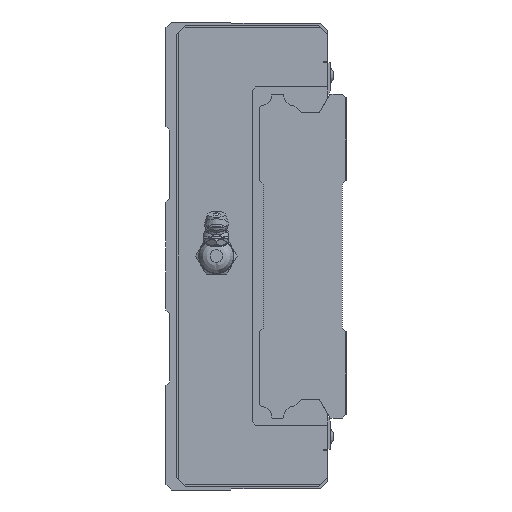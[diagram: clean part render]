
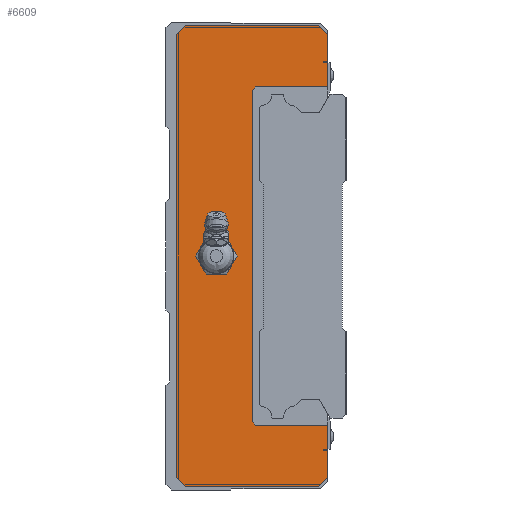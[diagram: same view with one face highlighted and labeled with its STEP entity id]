
A CAD part, left-side view. The second image highlights one B-rep face of the part: STEP entity #6609.
In plain terms, the highlighted planar face has unit normal (-1, 0, 0).
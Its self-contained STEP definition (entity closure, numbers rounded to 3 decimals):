
#108=LINE('',#10257,#514);
#123=LINE('',#10288,#529);
#130=LINE('',#10302,#536);
#134=LINE('',#10309,#540);
#142=LINE('',#10326,#548);
#145=LINE('',#10331,#551);
#164=LINE('',#10371,#570);
#165=LINE('',#10374,#571);
#166=LINE('',#10375,#572);
#167=LINE('',#10376,#573);
#168=LINE('',#10378,#574);
#169=LINE('',#10380,#575);
#170=LINE('',#10382,#576);
#171=LINE('',#10384,#577);
#172=LINE('',#10386,#578);
#173=LINE('',#10388,#579);
#174=LINE('',#10390,#580);
#175=LINE('',#10392,#581);
#176=LINE('',#10394,#582);
#177=LINE('',#10396,#583);
#178=LINE('',#10398,#584);
#179=LINE('',#10400,#585);
#514=VECTOR('',#8031,1000.);
#529=VECTOR('',#8048,1000.);
#536=VECTOR('',#8059,1000.);
#540=VECTOR('',#8065,1000.);
#548=VECTOR('',#8075,1000.);
#551=VECTOR('',#8080,1000.);
#570=VECTOR('',#8109,1000.);
#571=VECTOR('',#8110,1000.);
#572=VECTOR('',#8111,1000.);
#573=VECTOR('',#8112,1000.);
#574=VECTOR('',#8113,1000.);
#575=VECTOR('',#8114,1000.);
#576=VECTOR('',#8115,1000.);
#577=VECTOR('',#8116,1000.);
#578=VECTOR('',#8117,1000.);
#579=VECTOR('',#8118,1000.);
#580=VECTOR('',#8119,1000.);
#581=VECTOR('',#8120,1000.);
#582=VECTOR('',#8121,1000.);
#583=VECTOR('',#8122,1000.);
#584=VECTOR('',#8123,1000.);
#585=VECTOR('',#8124,1000.);
#900=PLANE('',#7103);
#1286=CIRCLE('',#7104,4.864);
#1882=ORIENTED_EDGE('',*,*,#3431,.T.);
#1883=ORIENTED_EDGE('',*,*,#3432,.F.);
#1884=ORIENTED_EDGE('',*,*,#3433,.F.);
#1885=ORIENTED_EDGE('',*,*,#3400,.F.);
#1886=ORIENTED_EDGE('',*,*,#3396,.F.);
#1887=ORIENTED_EDGE('',*,*,#3389,.F.);
#1888=ORIENTED_EDGE('',*,*,#3434,.F.);
#1889=ORIENTED_EDGE('',*,*,#3374,.F.);
#1890=ORIENTED_EDGE('',*,*,#3411,.F.);
#1891=ORIENTED_EDGE('',*,*,#3408,.F.);
#1892=ORIENTED_EDGE('',*,*,#3435,.F.);
#1893=ORIENTED_EDGE('',*,*,#3436,.F.);
#1894=ORIENTED_EDGE('',*,*,#3437,.F.);
#1895=ORIENTED_EDGE('',*,*,#3438,.F.);
#1896=ORIENTED_EDGE('',*,*,#3439,.F.);
#1897=ORIENTED_EDGE('',*,*,#3440,.T.);
#1898=ORIENTED_EDGE('',*,*,#3441,.T.);
#1899=ORIENTED_EDGE('',*,*,#3442,.T.);
#1900=ORIENTED_EDGE('',*,*,#3443,.T.);
#1901=ORIENTED_EDGE('',*,*,#3444,.T.);
#1902=ORIENTED_EDGE('',*,*,#3445,.F.);
#1903=ORIENTED_EDGE('',*,*,#3446,.F.);
#1904=ORIENTED_EDGE('',*,*,#3447,.F.);
#3374=EDGE_CURVE('',#4164,#4165,#108,.T.);
#3389=EDGE_CURVE('',#4179,#4180,#123,.T.);
#3396=EDGE_CURVE('',#4180,#4185,#130,.T.);
#3400=EDGE_CURVE('',#4185,#4187,#134,.T.);
#3408=EDGE_CURVE('',#4194,#4195,#142,.T.);
#3411=EDGE_CURVE('',#4195,#4164,#145,.T.);
#3431=EDGE_CURVE('',#4211,#4211,#1286,.T.);
#3432=EDGE_CURVE('',#4212,#4213,#164,.T.);
#3433=EDGE_CURVE('',#4187,#4212,#165,.T.);
#3434=EDGE_CURVE('',#4165,#4179,#166,.T.);
#3435=EDGE_CURVE('',#4214,#4194,#167,.T.);
#3436=EDGE_CURVE('',#4215,#4214,#168,.T.);
#3437=EDGE_CURVE('',#4216,#4215,#169,.T.);
#3438=EDGE_CURVE('',#4217,#4216,#170,.T.);
#3439=EDGE_CURVE('',#4218,#4217,#171,.T.);
#3440=EDGE_CURVE('',#4218,#4219,#172,.T.);
#3441=EDGE_CURVE('',#4219,#4220,#173,.T.);
#3442=EDGE_CURVE('',#4220,#4221,#174,.T.);
#3443=EDGE_CURVE('',#4221,#4222,#175,.T.);
#3444=EDGE_CURVE('',#4222,#4223,#176,.T.);
#3445=EDGE_CURVE('',#4224,#4223,#177,.T.);
#3446=EDGE_CURVE('',#4225,#4224,#178,.T.);
#3447=EDGE_CURVE('',#4213,#4225,#179,.T.);
#4164=VERTEX_POINT('',#10256);
#4165=VERTEX_POINT('',#10258);
#4179=VERTEX_POINT('',#10287);
#4180=VERTEX_POINT('',#10289);
#4185=VERTEX_POINT('',#10303);
#4187=VERTEX_POINT('',#10310);
#4194=VERTEX_POINT('',#10325);
#4195=VERTEX_POINT('',#10327);
#4211=VERTEX_POINT('',#10370);
#4212=VERTEX_POINT('',#10372);
#4213=VERTEX_POINT('',#10373);
#4214=VERTEX_POINT('',#10377);
#4215=VERTEX_POINT('',#10379);
#4216=VERTEX_POINT('',#10381);
#4217=VERTEX_POINT('',#10383);
#4218=VERTEX_POINT('',#10385);
#4219=VERTEX_POINT('',#10387);
#4220=VERTEX_POINT('',#10389);
#4221=VERTEX_POINT('',#10391);
#4222=VERTEX_POINT('',#10393);
#4223=VERTEX_POINT('',#10395);
#4224=VERTEX_POINT('',#10397);
#4225=VERTEX_POINT('',#10399);
#4844=EDGE_LOOP('',(#1882));
#4845=EDGE_LOOP('',(#1883,#1884,#1885,#1886,#1887,#1888,#1889,#1890,#1891,
#1892,#1893,#1894,#1895,#1896,#1897,#1898,#1899,#1900,#1901,#1902,#1903,
#1904));
#5719=FACE_BOUND('',#4844,.T.);
#5720=FACE_BOUND('',#4845,.T.);
#6609=ADVANCED_FACE('',(#5719,#5720),#900,.F.);
#7103=AXIS2_PLACEMENT_3D('',#10368,#8105,#8106);
#7104=AXIS2_PLACEMENT_3D('',#10369,#8107,#8108);
#8031=DIRECTION('',(0.,0.707,0.707));
#8048=DIRECTION('',(0.,-0.707,0.707));
#8059=DIRECTION('',(0.,-1.,0.));
#8065=DIRECTION('',(0.,-0.707,-0.707));
#8075=DIRECTION('',(0.,0.707,-0.707));
#8080=DIRECTION('',(0.,1.,0.));
#8105=DIRECTION('',(1.,0.,0.));
#8106=DIRECTION('',(0.,0.,-1.));
#8107=DIRECTION('',(1.,0.,0.));
#8108=DIRECTION('',(0.,0.,-1.));
#8109=DIRECTION('',(0.,1.,0.));
#8110=DIRECTION('',(0.,0.,-1.));
#8111=DIRECTION('',(0.,0.,1.));
#8112=DIRECTION('',(0.,0.,-1.));
#8113=DIRECTION('',(0.,-1.,0.));
#8114=DIRECTION('',(0.,0.,-1.));
#8115=DIRECTION('',(0.,1.,0.));
#8116=DIRECTION('',(0.,0.,-1.));
#8117=DIRECTION('',(0.,1.,0.));
#8118=DIRECTION('',(0.,0.707,0.707));
#8119=DIRECTION('',(0.,0.,1.));
#8120=DIRECTION('',(0.,-0.707,0.707));
#8121=DIRECTION('',(0.,-1.,0.));
#8122=DIRECTION('',(0.,0.,-1.));
#8123=DIRECTION('',(0.,-1.,0.));
#8124=DIRECTION('',(0.,0.,-1.));
#10256=CARTESIAN_POINT('',(-68.75,41.1,-64.));
#10257=CARTESIAN_POINT('',(-68.75,41.1,-64.));
#10258=CARTESIAN_POINT('',(-68.75,43.6,-61.5));
#10287=CARTESIAN_POINT('',(-68.75,43.6,61.5));
#10288=CARTESIAN_POINT('',(-68.75,43.6,61.5));
#10289=CARTESIAN_POINT('',(-68.75,41.1,64.));
#10302=CARTESIAN_POINT('',(-68.75,46.6,64.));
#10303=CARTESIAN_POINT('',(-68.75,4.1,64.));
#10309=CARTESIAN_POINT('',(-68.75,4.1,64.));
#10310=CARTESIAN_POINT('',(-68.75,1.6,61.5));
#10325=CARTESIAN_POINT('',(-68.75,1.6,-61.5));
#10326=CARTESIAN_POINT('',(-68.75,1.6,-61.5));
#10327=CARTESIAN_POINT('',(-68.75,4.1,-64.));
#10331=CARTESIAN_POINT('',(-68.75,0.,-64.));
#10368=CARTESIAN_POINT('',(-68.75,0.,0.));
#10369=CARTESIAN_POINT('',(-68.75,32.6,0.));
#10370=CARTESIAN_POINT('',(-68.75,32.6,-4.864));
#10371=CARTESIAN_POINT('',(-68.75,0.,54.));
#10372=CARTESIAN_POINT('',(-68.75,1.6,54.));
#10373=CARTESIAN_POINT('',(-68.75,2.779,54.));
#10374=CARTESIAN_POINT('',(-68.75,1.6,62.7));
#10375=CARTESIAN_POINT('',(-68.75,43.6,-61.5));
#10376=CARTESIAN_POINT('',(-68.75,1.6,62.7));
#10377=CARTESIAN_POINT('',(-68.75,1.6,-54.));
#10378=CARTESIAN_POINT('',(-68.75,0.,-54.));
#10379=CARTESIAN_POINT('',(-68.75,2.779,-54.));
#10380=CARTESIAN_POINT('',(-68.75,2.779,0.));
#10381=CARTESIAN_POINT('',(-68.75,2.779,-53.7));
#10382=CARTESIAN_POINT('',(-68.75,0.,-53.7));
#10383=CARTESIAN_POINT('',(-68.75,1.6,-53.7));
#10384=CARTESIAN_POINT('',(-68.75,1.6,62.7));
#10385=CARTESIAN_POINT('',(-68.75,1.6,-47.));
#10386=CARTESIAN_POINT('',(-68.75,1.6,-47.));
#10387=CARTESIAN_POINT('',(-68.75,21.6,-47.));
#10388=CARTESIAN_POINT('',(-68.75,21.6,-47.));
#10389=CARTESIAN_POINT('',(-68.75,22.6,-46.));
#10390=CARTESIAN_POINT('',(-68.75,22.6,-46.));
#10391=CARTESIAN_POINT('',(-68.75,22.6,46.));
#10392=CARTESIAN_POINT('',(-68.75,22.6,46.));
#10393=CARTESIAN_POINT('',(-68.75,21.6,47.));
#10394=CARTESIAN_POINT('',(-68.75,21.6,47.));
#10395=CARTESIAN_POINT('',(-68.75,1.6,47.));
#10396=CARTESIAN_POINT('',(-68.75,1.6,62.7));
#10397=CARTESIAN_POINT('',(-68.75,1.6,53.7));
#10398=CARTESIAN_POINT('',(-68.75,0.,53.7));
#10399=CARTESIAN_POINT('',(-68.75,2.779,53.7));
#10400=CARTESIAN_POINT('',(-68.75,2.779,0.));
